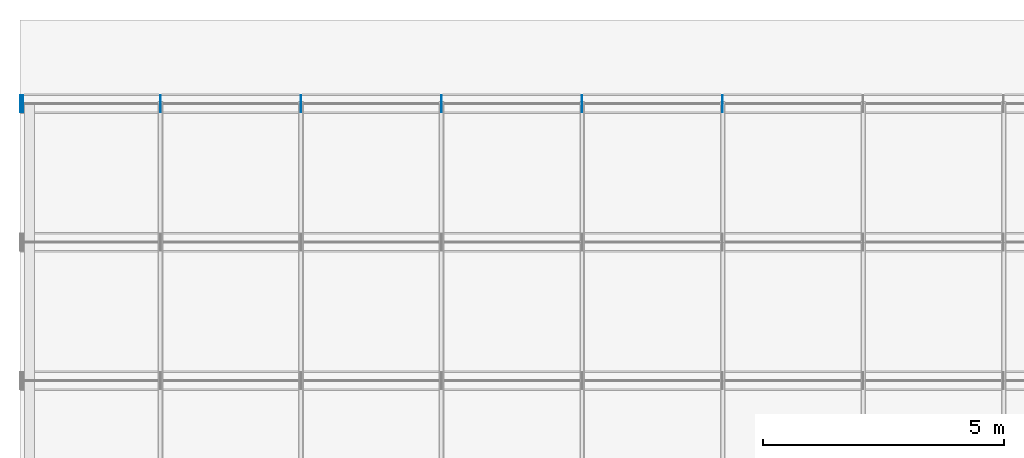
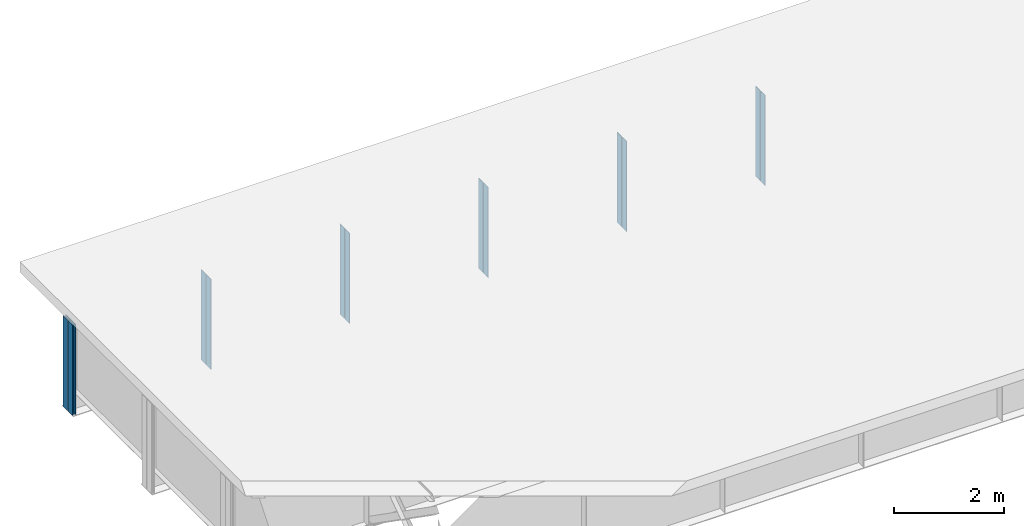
# One storey, part 4 of 13: 14 plates.
"""IFC4 building model written with IfcOpenShell, lengths in metres."""

import ifcopenshell
import ifcopenshell.guid

model = None  # the IFC model being written
_history = None  # IfcOwnerHistory: only IFC2X3 demands one
_inside = {}  # id of a spatial element -> (the spatial element, [elements in it])
_under = {}  # id of a project, library or spatial element -> (it, [spatial elements below it])
_declared = {}  # id of a project -> (the project, [libraries it declares])
_typed = {}  # id of a type object -> (the type object, [elements of that type])
_made_of = {}  # id of a material, layer set ... -> (it, [elements and type objects made of it])


def new_model(schema):
    """Start an empty IFC model of exactly this schema.

    Asked for "IFC4X3", IfcOpenShell would pick the latest addendum, in which some entities
    have other attributes; the version numbers below select the first issue.
    IFC2X3 requires an IfcOwnerHistory on every rooted entity: one is made here for all.
    """
    global model, _history
    if schema == "IFC4X3":
        model = ifcopenshell.file(schema_version=(4, 3, 0, 0))
    else:
        model = ifcopenshell.file(schema=schema)
    _inside.clear()
    _under.clear()
    _declared.clear()
    _typed.clear()
    _made_of.clear()
    _history = None
    if model.schema == "IFC2X3":
        org = make("IfcOrganization", Name="unknown")
        user = make(
            "IfcPersonAndOrganization",
            ThePerson=make("IfcPerson", FamilyName="unknown"),
            TheOrganization=org,
        )
        app = make(
            "IfcApplication",
            ApplicationDeveloper=org,
            Version="unknown",
            ApplicationFullName="unknown",
            ApplicationIdentifier="unknown",
        )
        _history = make(
            "IfcOwnerHistory",
            OwningUser=user,
            OwningApplication=app,
            ChangeAction="ADDED",
            CreationDate=0,
        )
    return model


def make(cls, **values):
    """One entity of the class cls with the attributes given. An attribute that is None is left unset."""
    return model.create_entity(
        cls, **{name: value for name, value in values.items() if value is not None}
    )


def rooted(cls, **values):
    """An entity with a GlobalId (a new one), such as an element, a storey or a relation."""
    return make(cls, GlobalId=ifcopenshell.guid.new(), OwnerHistory=_history, **values)


def si_unit(unit_type, name, prefix=None):
    """IfcSIUnit, for example si_unit("LENGTHUNIT", "METRE", prefix="MILLI")."""
    return make("IfcSIUnit", UnitType=unit_type, Prefix=prefix, Name=name)


def assignment(units):
    """IfcUnitAssignment: the units of a project."""
    return None if units is None else make("IfcUnitAssignment", Units=units)


def point(xyz):
    """IfcCartesianPoint."""
    return None if xyz is None else make("IfcCartesianPoint", Coordinates=xyz)


def direction(xyz):
    """IfcDirection."""
    return None if xyz is None else make("IfcDirection", DirectionRatios=xyz)


def frame(location, z_axis=None, x_axis=None):
    """IfcAxis2Placement3D, a coordinate frame: its origin and axes. An axis left out is left unset."""
    return make(
        "IfcAxis2Placement3D",
        Location=point(location),
        Axis=direction(z_axis),
        RefDirection=direction(x_axis),
    )


def frame_2d(location, x_axis=None):
    """IfcAxis2Placement2D, a coordinate frame in the plane: its origin and x axis."""
    return make(
        "IfcAxis2Placement2D", Location=point(location), RefDirection=direction(x_axis)
    )


def origin():
    """The frame at (0, 0, 0) with its axes left unset."""
    return frame((0.0, 0.0, 0.0))


def origin_with_axes():
    """The frame at (0, 0, 0) with the z axis (0, 0, 1) and the x axis (1, 0, 0) written out."""
    return frame((0.0, 0.0, 0.0), z_axis=(0.0, 0.0, 1.0), x_axis=(1.0, 0.0, 0.0))


def origin_2d_with_axis():
    """The frame at (0, 0) in the plane with the x axis (1, 0) written out."""
    return frame_2d((0.0, 0.0), x_axis=(1.0, 0.0))


def place(relative_to, where):
    """IfcLocalPlacement: puts the frame where relative to a parent placement (None: the world)."""
    return make(
        "IfcLocalPlacement", PlacementRelTo=relative_to, RelativePlacement=where
    )


def context(
    kind, dimensions, precision=None, world=None, true_north=None, identifier=None
):
    """IfcGeometricRepresentationContext, for example the 3D "Model" context."""
    return make(
        "IfcGeometricRepresentationContext",
        ContextIdentifier=identifier,
        ContextType=kind,
        CoordinateSpaceDimension=dimensions,
        Precision=precision,
        WorldCoordinateSystem=world,
        TrueNorth=true_north,
    )


def subcontext(parent, identifier, kind, view, scale=None):
    """IfcGeometricRepresentationSubContext, for example "Body" below "Model"."""
    return make(
        "IfcGeometricRepresentationSubContext",
        ContextIdentifier=identifier,
        ContextType=kind,
        ParentContext=parent,
        TargetScale=scale,
        TargetView=view,
    )


def project(units=None, contexts=None):
    """IfcProject with its units and contexts."""
    return rooted(
        "IfcProject",
        Name="project",
        RepresentationContexts=contexts,
        UnitsInContext=assignment(units),
    )


def spatial(cls, under=None, at=None, **own):
    """A site, building, storey or space (cls), placed at a placement, below another one or the project."""
    s = rooted(cls, ObjectPlacement=at, **own)
    if under is not None:
        _under.setdefault(under.id(), (under, []))[1].append(s)
    return s


def profile(cls, at=None, kind="AREA", **sizes):
    """A parametric profile (cls). Its sizes go by their IFC names, for example OverallWidth=200.0."""
    return make(cls, ProfileType=kind, Position=at, **sizes)


def rectangle(**sizes):
    """IfcRectangleProfileDef."""
    return profile("IfcRectangleProfileDef", **sizes)


def extrude(swept, where, along, depth):
    """IfcExtrudedAreaSolid: the profile swept, set in the frame where, extruded along a direction by depth."""
    return make(
        "IfcExtrudedAreaSolid",
        SweptArea=swept,
        Position=where,
        ExtrudedDirection=direction(along),
        Depth=depth,
    )


def shape(context_of_items, identifier, shape_type, items):
    """IfcShapeRepresentation: the items that make up one representation, for example the "Body"."""
    return make(
        "IfcShapeRepresentation",
        ContextOfItems=context_of_items,
        RepresentationIdentifier=identifier,
        RepresentationType=shape_type,
        Items=items,
    )


def made_of(thing, what):
    """Note that an element or type object is made of a material, layer set ...; save() writes the relation."""
    if what is not None:
        _made_of.setdefault(what.id(), (what, []))[1].append(thing)
    return thing


def element(
    cls,
    number,
    at=None,
    inside=None,
    cuts=None,
    type_object=None,
    material=None,
    context=None,
    identifier="Body",
    shape_type=None,
    held_by="IfcProductDefinitionShape",
    body=None,
    shapes=None,
    **own,
):
    """One element of the class cls, such as IfcWall. Its Tag is "e" and its number.

    at: its placement. inside: the storey or other place that contains it. cuts: it is an
    opening in that element (IfcRelVoidsElement). A single representation is given by context,
    identifier, shape_type and body (its items); several are given by shapes. held_by: the class
    of the entity that holds the representations. save() writes the other relations.
    """
    e = rooted(cls, Tag="e%d" % number, ObjectPlacement=at, **own)
    if body is not None:
        shapes = [shape(context, identifier, shape_type, body)]
    if shapes is not None:
        e.Representation = make(held_by, Representations=shapes)
    if inside is not None:
        _inside.setdefault(inside.id(), (inside, []))[1].append(e)
    if cuts is not None:
        rooted(
            "IfcRelVoidsElement", RelatingBuildingElement=cuts, RelatedOpeningElement=e
        )
    if type_object is not None:
        _typed.setdefault(type_object.id(), (type_object, []))[1].append(e)
    return made_of(e, material)


def aggregate(whole, parts):
    """IfcRelAggregates: a whole, such as a stair, and the parts it consists of."""
    return rooted("IfcRelAggregates", RelatingObject=whole, RelatedObjects=parts)


def save(model, path):
    """Write the relations noted so far, then the file.

    IfcRelAggregates (storeys below a building ...), IfcRelContainedInSpatialStructure (elements
    in a storey), IfcRelDefinesByType, IfcRelAssociatesMaterial and IfcRelDeclares: one each for
    every whole, place, type object, material and project.
    """
    for whole, parts in _under.values():
        aggregate(whole, parts)
    for where, things in _inside.values():
        rooted(
            "IfcRelContainedInSpatialStructure",
            RelatedElements=things,
            RelatingStructure=where,
        )
    for kind, things in _typed.values():
        rooted("IfcRelDefinesByType", RelatedObjects=things, RelatingType=kind)
    for what, things in _made_of.values():
        rooted("IfcRelAssociatesMaterial", RelatedObjects=things, RelatingMaterial=what)
    for by, libraries in _declared.values():
        rooted("IfcRelDeclares", RelatingContext=by, RelatedDefinitions=libraries)
    model.write(path)


model = new_model("IFC4")

# Units and contexts
model_context = context("Model", 3, precision=1e-05, world=origin())
body_context = subcontext(model_context, "Body", "Model", "MODEL_VIEW")
ifc_project = project(units=[si_unit("LENGTHUNIT", "METRE"), si_unit("AREAUNIT", "SQUARE_METRE"), si_unit("VOLUMEUNIT", "CUBIC_METRE"), si_unit("PLANEANGLEUNIT", "RADIAN")], contexts=[model_context])

# Site, building, storey
site_placement = place(None, origin_with_axes())
site = spatial("IfcSite", under=ifc_project, at=site_placement, Name="Default Site")
building_placement = place(site_placement, origin_with_axes())
building = spatial("IfcBuilding", under=site, at=building_placement, Name="Bridge Structure")
storey_placement = place(building_placement, origin_with_axes())
storey = spatial("IfcBuildingStorey", under=building, at=storey_placement, Name="Superstructure")

# Plates
for number, where, z_axis, x_axis, name in (
    (1, (2.916, 4.4035, -1.006), (0.0, 0.0, 1.0), (1.0, 0.0, 0.0), "Intermediate Stiffener 4"),
    (2, (2.916, 4.2215, -1.006), (0.0, 0.0, 1.0), (1.0, 0.0, 0.0), "Intermediate Stiffener 4"),
    (3, (5.832, 4.4035, -1.006), (0.0, 0.0, 1.0), (1.0, 0.0, 0.0), "Intermediate Stiffener 4"),
    (4, (5.832, 4.2215, -1.006), (0.0, 0.0, 1.0), (1.0, 0.0, 0.0), "Intermediate Stiffener 4"),
    (5, (8.748, 4.4035, -1.006), (0.0, 0.0, 1.0), (1.0, 0.0, 0.0), "Intermediate Stiffener 4"),
    (6, (8.748, 4.2215, -1.006), (0.0, 0.0, 1.0), (1.0, 0.0, 0.0), "Intermediate Stiffener 4"),
    (7, (11.664, 4.4035, -1.006), (0.0, 0.0, 1.0), (1.0, 0.0, 0.0), "Intermediate Stiffener 4"),
    (8, (11.664, 4.2215, -1.006), (0.0, 0.0, 1.0), (1.0, 0.0, 0.0), "Intermediate Stiffener 4"),
    (9, (14.58, 4.4035, -1.006), (0.0, 0.0, 1.0), (1.0, 0.0, 0.0), "Intermediate Stiffener 4"),
    (10, (14.58, 4.2215, -1.006), (0.0, 0.0, 1.0), (1.0, 0.0, 0.0), "Intermediate Stiffener 4"),
):
    element("IfcPlate", number, at=place(storey_placement, frame(where, z_axis=z_axis, x_axis=x_axis)), inside=storey, Name=name, context=body_context, shape_type="SweptSolid", body=[
        extrude(rectangle(XDim=0.012, YDim=0.168, at=origin_2d_with_axis()), origin_with_axes(), (0.0, 0.0, 1.0), 2.012),
    ])
for number, where, z_axis, x_axis, name in (
    (11, (0.01, 4.4035, -1.006), (0.0, 0.0, 1.0), (1.0, 0.0, 0.0), "End Stiffener 4"),
    (12, (0.01, 4.2215, -1.006), (0.0, 0.0, 1.0), (1.0, 0.0, 0.0), "End Stiffener 4"),
    (13, (0.06, 4.4035, -1.006), (0.0, 0.0, 1.0), (1.0, 0.0, 0.0), "End Stiffener 4"),
    (14, (0.06, 4.2215, -1.006), (0.0, 0.0, 1.0), (1.0, 0.0, 0.0), "End Stiffener 4"),
):
    element("IfcPlate", number, at=place(storey_placement, frame(where, z_axis=z_axis, x_axis=x_axis)), inside=storey, Name=name, context=body_context, shape_type="SweptSolid", body=[
        extrude(rectangle(XDim=0.02, YDim=0.168, at=origin_2d_with_axis()), origin_with_axes(), (0.0, 0.0, 1.0), 2.012),
    ])

save(model, "model.ifc")
